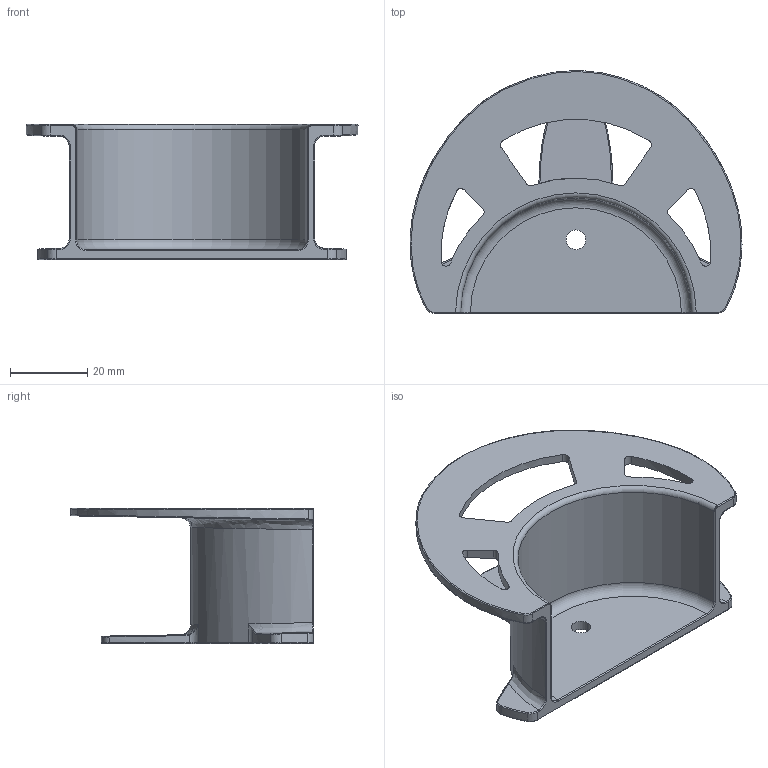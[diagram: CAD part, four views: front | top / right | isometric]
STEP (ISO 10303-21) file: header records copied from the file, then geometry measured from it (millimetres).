
FILE_DESCRIPTION((''),'2;1');
FILE_NAME('96-01116','2017-02-27T',('daniel.langford'),('Middle Atlantic Products'),'PRO/ENGINEER BY PARAMETRIC TECHNOLOGY CORPORATION, 2014310','PRO/ENGINEER BY PARAMETRIC TECHNOLOGY CORPORATION, 2014310','');
FILE_SCHEMA(('CONFIG_CONTROL_DESIGN'));
Length unit declared in the file: inch
Products named in the file (1): 96-01116
Bounding box: 85.86 x 62.74 x 34.92 mm (x, y, z)
Volume: 16832.1 mm3; surface area: 15919.8 mm2
Topology: 1 solids, 1 shells, 133 faces, 319 edges, 188 vertices
Faces by surface type: cylinder 53, bspline 41, torus 25, plane 12, extrusion 2
Entity records: 5872 total; most frequent: CARTESIAN_POINT 2995, ORIENTED_EDGE 638, DIRECTION 543, EDGE_CURVE 319, AXIS2_PLACEMENT_3D 230, VERTEX_POINT 188, EDGE_LOOP 141, CIRCLE 140
